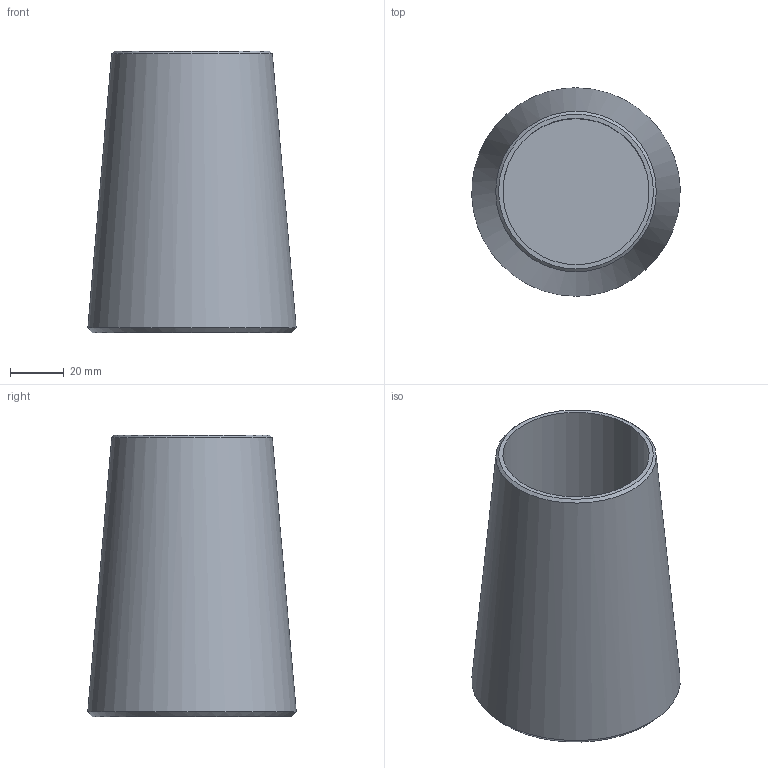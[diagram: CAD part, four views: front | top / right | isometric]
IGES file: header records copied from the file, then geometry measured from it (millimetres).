
Global section: file name: 520-052-KMU; native system: Autodesk Inventor 2016; preprocessor: unknown; author: BAYR; date: 20200618.123412; units: millimetre
Bounding box: 77.59 x 77.65 x 105 mm (x, y, z)
Volume: 208039.3 mm3; surface area: 43474.9 mm2
Topology: 1 solids, 1 shells, 7 faces, 14 edges, 10 vertices
Faces by surface type: bspline 7
